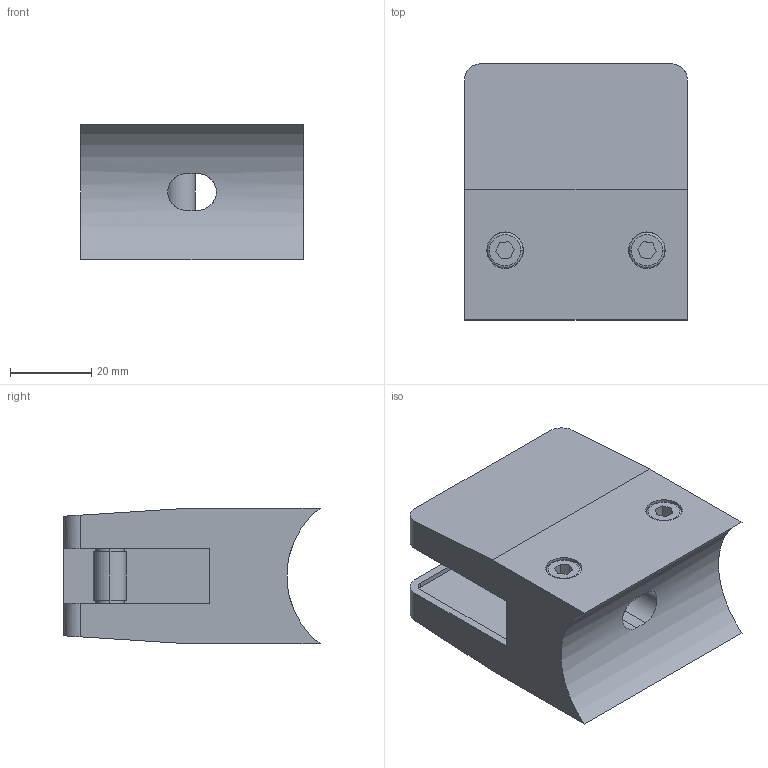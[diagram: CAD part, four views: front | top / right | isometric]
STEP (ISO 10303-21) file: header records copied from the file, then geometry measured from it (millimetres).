
FILE_DESCRIPTION (( 'STEP AP203' ), '1' );
FILE_NAME ('3D_GG4522_G 42.4_188753880.STEP', '2024-11-01T08:41:54', ( '' ), ( '' ), 'SwSTEP 2.0', 'SolidWorks 2023', '' );
FILE_SCHEMA (( 'CONFIG_CONTROL_DESIGN' ));
Length unit declared in the file: millimetre
Products named in the file (1): 3D_GG4522_G 42.4_188753880
Bounding box: 55 x 63.2 x 33.5 mm (x, y, z)
Volume: 73991.4 mm3; surface area: 21495.2 mm2
Topology: 3 solids, 3 shells, 89 faces, 205 edges, 134 vertices
Faces by surface type: plane 49, cylinder 32, torus 4, cone 4
Entity records: 2665 total; most frequent: CARTESIAN_POINT 508, DIRECTION 446, ORIENTED_EDGE 410, EDGE_CURVE 205, AXIS2_PLACEMENT_3D 158, VERTEX_POINT 134, VECTOR 130, LINE 130
